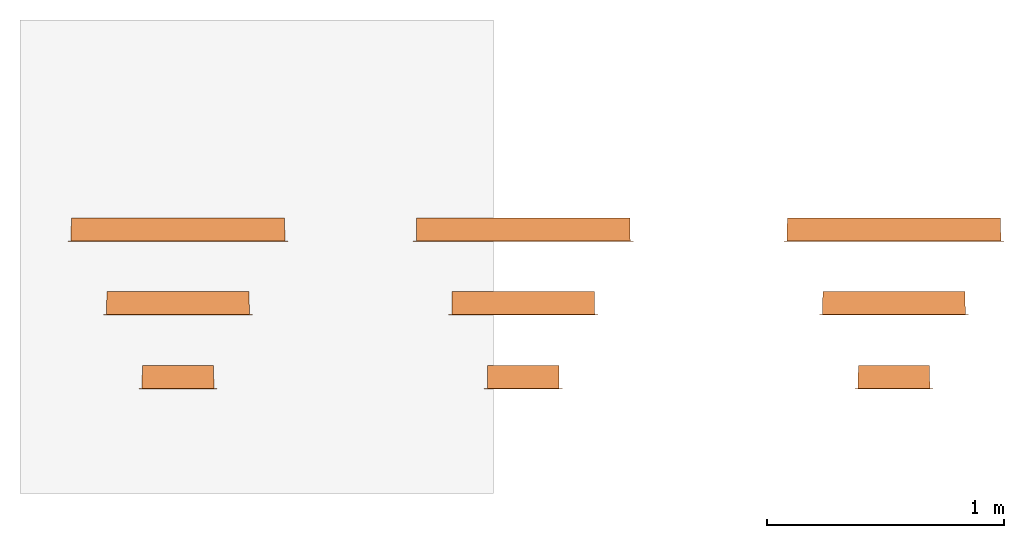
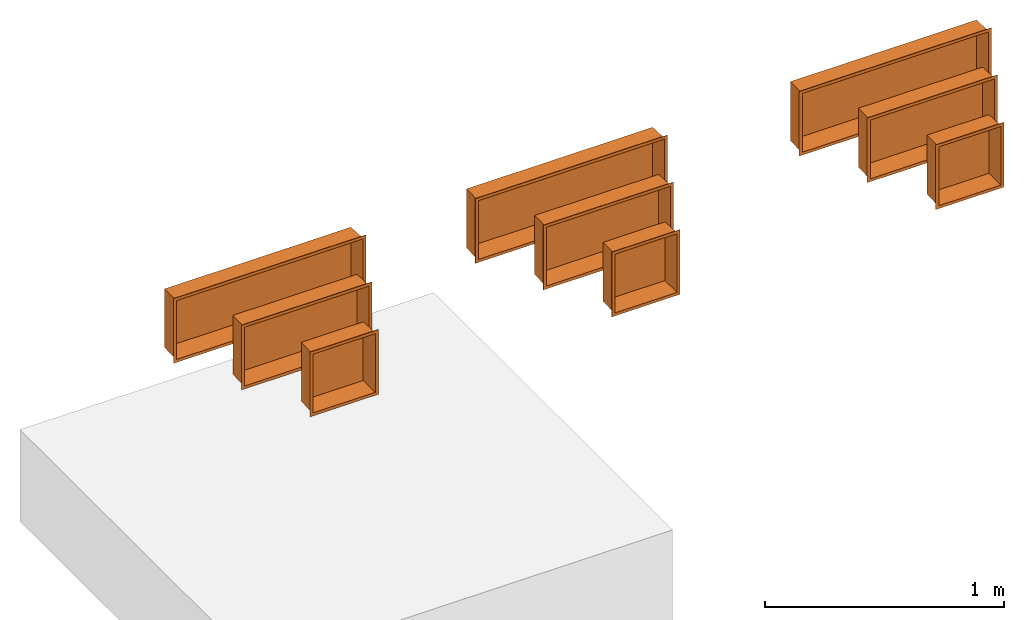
# One storey, part 2 of 2: 9 proxies.
"""IFC2X3 building model written with IfcOpenShell, lengths in millimetres."""

from ifc_helpers import new_model, entity, si_unit, converted_unit, derived_unit, direction, frame, origin, place, context, subcontext, project, spatial, faceted_brep, source, transform, mapped, material, type_object, type_shapes, element, save


model = new_model("IFC2X3")

# Units and contexts
model_context = context("Model", 3, precision=0.01, world=origin(), true_north=direction((6.12303176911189e-17, 1.0)))
context_of_model = context(None, 3, precision=0.01, world=origin(), true_north=direction((6.12303176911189e-17, 1.0)))
body_context = subcontext(model_context, "Body", "Model", "MODEL_VIEW")
ifc_project = project(units=[si_unit("LENGTHUNIT", "METRE", prefix="MILLI"), si_unit("AREAUNIT", "SQUARE_METRE"), si_unit("VOLUMEUNIT", "CUBIC_METRE"), converted_unit("PLANEANGLEUNIT", "DEGREE", entity("IfcRatioMeasure", 0.0174532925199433), si_unit("PLANEANGLEUNIT", "RADIAN"), dimensions=[0, 0, 0, 0, 0, 0, 0]), si_unit("MASSUNIT", "GRAM", prefix="KILO"), derived_unit("MASSDENSITYUNIT", [(si_unit("MASSUNIT", "GRAM", prefix="KILO"), 1), (si_unit("LENGTHUNIT", "METRE"), -3)]), si_unit("TIMEUNIT", "SECOND"), si_unit("FREQUENCYUNIT", "HERTZ"), si_unit("THERMODYNAMICTEMPERATUREUNIT", "DEGREE_CELSIUS"), derived_unit("THERMALTRANSMITTANCEUNIT", [(si_unit("MASSUNIT", "GRAM", prefix="KILO"), 1), (si_unit("THERMODYNAMICTEMPERATUREUNIT", "KELVIN"), -1), (si_unit("TIMEUNIT", "SECOND"), -3)]), derived_unit("VOLUMETRICFLOWRATEUNIT", [(si_unit("LENGTHUNIT", "METRE"), 3), (si_unit("TIMEUNIT", "SECOND"), -1)]), si_unit("ELECTRICCURRENTUNIT", "AMPERE"), si_unit("ELECTRICVOLTAGEUNIT", "VOLT"), si_unit("POWERUNIT", "WATT"), si_unit("FORCEUNIT", "NEWTON", prefix="KILO"), si_unit("ILLUMINANCEUNIT", "LUX"), si_unit("LUMINOUSFLUXUNIT", "LUMEN"), si_unit("LUMINOUSINTENSITYUNIT", "CANDELA"), derived_unit("USERDEFINED", [(si_unit("MASSUNIT", "GRAM", prefix="KILO"), -1), (si_unit("LENGTHUNIT", "METRE"), -2), (si_unit("TIMEUNIT", "SECOND"), 3), (si_unit("LUMINOUSFLUXUNIT", "LUMEN"), 1)]), derived_unit("LINEARVELOCITYUNIT", [(si_unit("LENGTHUNIT", "METRE"), 1), (si_unit("TIMEUNIT", "SECOND"), -1)]), si_unit("PRESSUREUNIT", "PASCAL"), derived_unit("USERDEFINED", [(si_unit("LENGTHUNIT", "METRE"), -2), (si_unit("MASSUNIT", "GRAM", prefix="KILO"), 1), (si_unit("TIMEUNIT", "SECOND"), -2)])], contexts=[model_context, context_of_model])

# Site, building, storey
site_placement = place(None, origin())
site = spatial("IfcSite", under=ifc_project, at=site_placement, Name="Default", CompositionType="ELEMENT")
building_placement = place(site_placement, origin())
building = spatial("IfcBuilding", under=site, at=building_placement, Name="n/a", CompositionType="ELEMENT")
storey_placement = place(building_placement, origin())
storey = spatial("IfcBuildingStorey", under=building, at=storey_placement, Name="Level 0", CompositionType="ELEMENT", Elevation=0.0)

# Proxies
ifc_material_1 = material(Name="DBLTD_Duten_Metal_BrushedBrass")
building_element_proxy_type_1 = type_object("IfcBuildingElementProxyType", PredefinedType="NOTDEFINED", material=ifc_material_1)
shared_shape_1 = source(origin(), body_context, "Body", "Brep", [
    faceted_brep([(315.0, 100.0, 315.0), (315.0, 100.0, 15.0), (15.0, 100.0, 15.0), (15.0, 100.0, 315.0), (317.0, 2.0, 317.0), (13.0, 2.0, 317.0), (13.0, 2.0, 13.0), (317.0, 2.0, 13.0), (15.0, 2.0, 315.0), (315.0, 2.0, 315.0), (315.0, 2.0, 15.0), (15.0, 2.0, 15.0), (313.0, 97.5743453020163, 313.0), (17.0, 97.5743453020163, 313.0), (17.0, 97.5743453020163, 17.0), (313.0, 97.5743453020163, 17.0)], [[[0, 1, 2, 3]], [[4, 5, 6, 7], [8, 9, 10, 11]], [[0, 3, 5, 4]], [[3, 2, 6, 5]], [[2, 1, 7, 6]], [[1, 0, 4, 7]], [[12, 13, 14, 15]], [[13, 12, 9, 8]], [[14, 13, 8, 11]], [[15, 14, 11, 10]], [[12, 15, 10, 9]]]),
    faceted_brep([(330.0, 0.0, 330.0), (0.0, 0.0, 330.0), (0.0, 0.0, 0.0), (330.0, 0.0, 0.0), (315.0, 0.0, 315.0), (315.0, 0.0, 15.0), (15.0, 0.0, 15.0), (15.0, 0.0, 315.0), (330.0, 2.0, 330.0), (330.0, 2.0, 0.0), (0.0, 2.0, 0.0), (0.0, 2.0, 330.0), (315.0, 2.0, 315.0), (15.0, 2.0, 315.0), (15.0, 2.0, 15.0), (315.0, 2.0, 15.0)], [[[0, 1, 2, 3], [4, 5, 6, 7]], [[8, 9, 10, 11], [12, 13, 14, 15]], [[1, 0, 8, 11]], [[2, 1, 11, 10]], [[3, 2, 10, 9]], [[0, 3, 9, 8]], [[5, 4, 12, 15]], [[6, 5, 15, 14]], [[7, 6, 14, 13]], [[4, 7, 13, 12]]]),
])
type_shapes(building_element_proxy_type_1, [shared_shape_1])
proxy_1_placement = place(storey_placement, frame((2120.04327716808, -48.2902614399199, 835.0)))
element("IfcBuildingElementProxy", 1, at=proxy_1_placement, inside=storey, type_object=building_element_proxy_type_1, material=ifc_material_1, Name="(7)", ObjectType="DBLTD_Duten_Shelves_RecessedNiche:Brushed Brass Niche 30cm", context=body_context, shape_type="MappedRepresentation", body=[
    mapped(shared_shape_1, transform((0.0, 0.0, 0.0), scale=1.0)),
])
building_element_proxy_type_2 = type_object("IfcBuildingElementProxyType", PredefinedType="NOTDEFINED", material=ifc_material_1)
shared_shape_2 = source(origin(), body_context, "Body", "Brep", [
    faceted_brep([(915.0, 100.0, 315.0), (915.0, 100.0, 15.0), (15.0, 100.0, 15.0), (15.0, 100.0, 315.0), (917.0, 2.0, 317.0), (13.0, 2.0, 317.0), (13.0, 2.0, 13.0), (917.0, 2.0, 13.0), (15.0, 2.0, 315.0), (915.0, 2.0, 315.0), (915.0, 2.0, 15.0), (15.0, 2.0, 15.0), (913.0, 97.5743453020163, 313.0), (17.0, 97.5743453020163, 313.0), (17.0, 97.5743453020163, 17.0), (913.0, 97.5743453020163, 17.0)], [[[0, 1, 2, 3]], [[4, 5, 6, 7], [8, 9, 10, 11]], [[0, 3, 5, 4]], [[3, 2, 6, 5]], [[2, 1, 7, 6]], [[1, 0, 4, 7]], [[12, 13, 14, 15]], [[13, 12, 9, 8]], [[14, 13, 8, 11]], [[15, 14, 11, 10]], [[12, 15, 10, 9]]]),
    faceted_brep([(930.0, 0.0, 330.0), (0.0, 0.0, 330.0), (0.0, 0.0, 0.0), (930.0, 0.0, 0.0), (915.0, 0.0, 315.0), (915.0, 0.0, 15.0), (15.0, 0.0, 15.0), (15.0, 0.0, 315.0), (930.0, 2.0, 330.0), (930.0, 2.0, 0.0), (0.0, 2.0, 0.0), (0.0, 2.0, 330.0), (915.0, 2.0, 315.0), (15.0, 2.0, 315.0), (15.0, 2.0, 15.0), (915.0, 2.0, 15.0)], [[[0, 1, 2, 3], [4, 5, 6, 7]], [[8, 9, 10, 11], [12, 13, 14, 15]], [[1, 0, 8, 11]], [[2, 1, 11, 10]], [[3, 2, 10, 9]], [[0, 3, 9, 8]], [[5, 4, 12, 15]], [[6, 5, 15, 14]], [[7, 6, 14, 13]], [[4, 7, 13, 12]]]),
])
type_shapes(building_element_proxy_type_2, [shared_shape_2])
proxy_2_placement = place(storey_placement, frame((1820.04327716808, 575.467987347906, 835.0)))
element("IfcBuildingElementProxy", 2, at=proxy_2_placement, inside=storey, type_object=building_element_proxy_type_2, material=ifc_material_1, Name="(9)", ObjectType="DBLTD_Duten_Shelves_RecessedNiche:Brushed Brass Niche 90cm", context=body_context, shape_type="MappedRepresentation", body=[
    mapped(shared_shape_2, transform((0.0, 0.0, 0.0), scale=1.0)),
])
building_element_proxy_type_3 = type_object("IfcBuildingElementProxyType", PredefinedType="NOTDEFINED", material=ifc_material_1)
shared_shape_3 = source(origin(), body_context, "Body", "Brep", [
    faceted_brep([(615.0, 100.0, 315.0), (615.0, 100.0, 15.0), (15.0, 100.0, 15.0), (15.0, 100.0, 315.0), (617.0, 2.0, 317.0), (13.0, 2.0, 317.0), (13.0, 2.0, 13.0), (617.0, 2.0, 13.0), (15.0, 2.0, 315.0), (615.0, 2.0, 315.0), (615.0, 2.0, 15.0), (15.0, 2.0, 15.0), (613.0, 97.5743453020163, 313.0), (17.0, 97.5743453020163, 313.0), (17.0, 97.5743453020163, 17.0), (613.0, 97.5743453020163, 17.0)], [[[0, 1, 2, 3]], [[4, 5, 6, 7], [8, 9, 10, 11]], [[0, 3, 5, 4]], [[3, 2, 6, 5]], [[2, 1, 7, 6]], [[1, 0, 4, 7]], [[12, 13, 14, 15]], [[13, 12, 9, 8]], [[14, 13, 8, 11]], [[15, 14, 11, 10]], [[12, 15, 10, 9]]]),
    faceted_brep([(630.0, 0.0, 330.0), (0.0, 0.0, 330.0), (0.0, 0.0, 0.0), (630.0, 0.0, 0.0), (615.0, 0.0, 315.0), (615.0, 0.0, 15.0), (15.0, 0.0, 15.0), (15.0, 0.0, 315.0), (630.0, 2.0, 330.0), (630.0, 2.0, 0.0), (0.0, 2.0, 0.0), (0.0, 2.0, 330.0), (615.0, 2.0, 315.0), (15.0, 2.0, 315.0), (15.0, 2.0, 15.0), (615.0, 2.0, 15.0)], [[[0, 1, 2, 3], [4, 5, 6, 7]], [[8, 9, 10, 11], [12, 13, 14, 15]], [[1, 0, 8, 11]], [[2, 1, 11, 10]], [[3, 2, 10, 9]], [[0, 3, 9, 8]], [[5, 4, 12, 15]], [[6, 5, 15, 14]], [[7, 6, 14, 13]], [[4, 7, 13, 12]]]),
])
type_shapes(building_element_proxy_type_3, [shared_shape_3])
proxy_3_placement = place(storey_placement, frame((1970.04327716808, 265.304306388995, 835.0)))
element("IfcBuildingElementProxy", 3, at=proxy_3_placement, inside=storey, type_object=building_element_proxy_type_3, material=ifc_material_1, Name="(11)", ObjectType="DBLTD_Duten_Shelves_RecessedNiche:Brushed Brass Niche 60cm", context=body_context, shape_type="MappedRepresentation", body=[
    mapped(shared_shape_3, transform((0.0, 0.0, 0.0), scale=1.0)),
])
ifc_material_2 = material(Name="DBLTD_Duten_Metal_BrushedStainlessSteel")
building_element_proxy_type_4 = type_object("IfcBuildingElementProxyType", PredefinedType="NOTDEFINED", material=ifc_material_2)
shared_shape_4 = source(origin(), body_context, "Body", "Brep", [
    faceted_brep([(315.0, 100.0, 315.0), (315.0, 100.0, 15.0), (15.0, 100.0, 15.0), (15.0, 100.0, 315.0), (317.0, 2.0, 317.0), (13.0, 2.0, 317.0), (13.0, 2.0, 13.0), (317.0, 2.0, 13.0), (15.0, 2.0, 315.0), (315.0, 2.0, 315.0), (315.0, 2.0, 15.0), (15.0, 2.0, 15.0), (313.0, 97.5743453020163, 313.0), (17.0, 97.5743453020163, 313.0), (17.0, 97.5743453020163, 17.0), (313.0, 97.5743453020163, 17.0)], [[[0, 1, 2, 3]], [[4, 5, 6, 7], [8, 9, 10, 11]], [[0, 3, 5, 4]], [[3, 2, 6, 5]], [[2, 1, 7, 6]], [[1, 0, 4, 7]], [[12, 13, 14, 15]], [[13, 12, 9, 8]], [[14, 13, 8, 11]], [[15, 14, 11, 10]], [[12, 15, 10, 9]]]),
    faceted_brep([(330.0, 0.0, 330.0), (0.0, 0.0, 330.0), (0.0, 0.0, 0.0), (330.0, 0.0, 0.0), (315.0, 0.0, 315.0), (315.0, 0.0, 15.0), (15.0, 0.0, 15.0), (15.0, 0.0, 315.0), (330.0, 2.0, 330.0), (330.0, 2.0, 0.0), (0.0, 2.0, 0.0), (0.0, 2.0, 330.0), (315.0, 2.0, 315.0), (15.0, 2.0, 315.0), (15.0, 2.0, 15.0), (315.0, 2.0, 15.0)], [[[0, 1, 2, 3], [4, 5, 6, 7]], [[8, 9, 10, 11], [12, 13, 14, 15]], [[1, 0, 8, 11]], [[2, 1, 11, 10]], [[3, 2, 10, 9]], [[0, 3, 9, 8]], [[5, 4, 12, 15]], [[6, 5, 15, 14]], [[7, 6, 14, 13]], [[4, 7, 13, 12]]]),
])
type_shapes(building_element_proxy_type_4, [shared_shape_4])
proxy_4_placement = place(storey_placement, frame((3578.50290761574, -48.2902614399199, 835.0)))
element("IfcBuildingElementProxy", 4, at=proxy_4_placement, inside=storey, type_object=building_element_proxy_type_4, material=ifc_material_2, Name="(13)", ObjectType="DBLTD_Duten_Shelves_RecessedNiche:Brushed Stainless Steel Niche 30cm", context=body_context, shape_type="MappedRepresentation", body=[
    mapped(shared_shape_4, transform((0.0, 0.0, 0.0), scale=1.0)),
])
building_element_proxy_type_5 = type_object("IfcBuildingElementProxyType", PredefinedType="NOTDEFINED", material=ifc_material_2)
shared_shape_5 = source(origin(), body_context, "Body", "Brep", [
    faceted_brep([(615.0, 100.0, 315.0), (615.0, 100.0, 15.0), (15.0, 100.0, 15.0), (15.0, 100.0, 315.0), (617.0, 2.0, 317.0), (13.0, 2.0, 317.0), (13.0, 2.0, 13.0), (617.0, 2.0, 13.0), (15.0, 2.0, 315.0), (615.0, 2.0, 315.0), (615.0, 2.0, 15.0), (15.0, 2.0, 15.0), (613.0, 97.5743453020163, 313.0), (17.0, 97.5743453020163, 313.0), (17.0, 97.5743453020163, 17.0), (613.0, 97.5743453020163, 17.0)], [[[0, 1, 2, 3]], [[4, 5, 6, 7], [8, 9, 10, 11]], [[0, 3, 5, 4]], [[3, 2, 6, 5]], [[2, 1, 7, 6]], [[1, 0, 4, 7]], [[12, 13, 14, 15]], [[13, 12, 9, 8]], [[14, 13, 8, 11]], [[15, 14, 11, 10]], [[12, 15, 10, 9]]]),
    faceted_brep([(630.0, 0.0, 330.0), (0.0, 0.0, 330.0), (0.0, 0.0, 0.0), (630.0, 0.0, 0.0), (615.0, 0.0, 315.0), (615.0, 0.0, 15.0), (15.0, 0.0, 15.0), (15.0, 0.0, 315.0), (630.0, 2.0, 330.0), (630.0, 2.0, 0.0), (0.0, 2.0, 0.0), (0.0, 2.0, 330.0), (615.0, 2.0, 315.0), (15.0, 2.0, 315.0), (15.0, 2.0, 15.0), (615.0, 2.0, 15.0)], [[[0, 1, 2, 3], [4, 5, 6, 7]], [[8, 9, 10, 11], [12, 13, 14, 15]], [[1, 0, 8, 11]], [[2, 1, 11, 10]], [[3, 2, 10, 9]], [[0, 3, 9, 8]], [[5, 4, 12, 15]], [[6, 5, 15, 14]], [[7, 6, 14, 13]], [[4, 7, 13, 12]]]),
])
type_shapes(building_element_proxy_type_5, [shared_shape_5])
proxy_5_placement = place(storey_placement, frame((3428.50290761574, 265.304306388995, 835.0)))
element("IfcBuildingElementProxy", 5, at=proxy_5_placement, inside=storey, type_object=building_element_proxy_type_5, material=ifc_material_2, Name="(15)", ObjectType="DBLTD_Duten_Shelves_RecessedNiche:Brushed Stainless Steel Niche 60cm", context=body_context, shape_type="MappedRepresentation", body=[
    mapped(shared_shape_5, transform((0.0, 0.0, 0.0), scale=1.0)),
])
building_element_proxy_type_6 = type_object("IfcBuildingElementProxyType", PredefinedType="NOTDEFINED", material=ifc_material_2)
shared_shape_6 = source(origin(), body_context, "Body", "Brep", [
    faceted_brep([(915.0, 100.0, 315.0), (915.0, 100.0, 15.0), (15.0, 100.0, 15.0), (15.0, 100.0, 315.0), (917.0, 2.0, 317.0), (13.0, 2.0, 317.0), (13.0, 2.0, 13.0), (917.0, 2.0, 13.0), (15.0, 2.0, 315.0), (915.0, 2.0, 315.0), (915.0, 2.0, 15.0), (15.0, 2.0, 15.0), (913.0, 97.5743453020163, 313.0), (17.0, 97.5743453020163, 313.0), (17.0, 97.5743453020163, 17.0), (913.0, 97.5743453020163, 17.0)], [[[0, 1, 2, 3]], [[4, 5, 6, 7], [8, 9, 10, 11]], [[0, 3, 5, 4]], [[3, 2, 6, 5]], [[2, 1, 7, 6]], [[1, 0, 4, 7]], [[12, 13, 14, 15]], [[13, 12, 9, 8]], [[14, 13, 8, 11]], [[15, 14, 11, 10]], [[12, 15, 10, 9]]]),
    faceted_brep([(930.0, 0.0, 330.0), (0.0, 0.0, 330.0), (0.0, 0.0, 0.0), (930.0, 0.0, 0.0), (915.0, 0.0, 315.0), (915.0, 0.0, 15.0), (15.0, 0.0, 15.0), (15.0, 0.0, 315.0), (930.0, 2.0, 330.0), (930.0, 2.0, 0.0), (0.0, 2.0, 0.0), (0.0, 2.0, 330.0), (915.0, 2.0, 315.0), (15.0, 2.0, 315.0), (15.0, 2.0, 15.0), (915.0, 2.0, 15.0)], [[[0, 1, 2, 3], [4, 5, 6, 7]], [[8, 9, 10, 11], [12, 13, 14, 15]], [[1, 0, 8, 11]], [[2, 1, 11, 10]], [[3, 2, 10, 9]], [[0, 3, 9, 8]], [[5, 4, 12, 15]], [[6, 5, 15, 14]], [[7, 6, 14, 13]], [[4, 7, 13, 12]]]),
])
type_shapes(building_element_proxy_type_6, [shared_shape_6])
proxy_6_placement = place(storey_placement, frame((3278.50290761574, 575.467987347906, 835.0)))
element("IfcBuildingElementProxy", 6, at=proxy_6_placement, inside=storey, type_object=building_element_proxy_type_6, material=ifc_material_2, Name="(17)", ObjectType="DBLTD_Duten_Shelves_RecessedNiche:Brushed Stainless Steel Niche 90cm", context=body_context, shape_type="MappedRepresentation", body=[
    mapped(shared_shape_6, transform((0.0, 0.0, 0.0), scale=1.0)),
])
ifc_material_3 = material(Name="DBLTD_Duten_Metal_MatteBlack")
building_element_proxy_type_7 = type_object("IfcBuildingElementProxyType", PredefinedType="NOTDEFINED", material=ifc_material_3)
shared_shape_7 = source(origin(), body_context, "Body", "Brep", [
    faceted_brep([(315.0, 100.0, 315.0), (315.0, 100.0, 15.0), (15.0, 100.0, 15.0), (15.0, 100.0, 315.0), (317.0, 2.0, 317.0), (13.0, 2.0, 317.0), (13.0, 2.0, 13.0), (317.0, 2.0, 13.0), (15.0, 2.0, 315.0), (315.0, 2.0, 315.0), (315.0, 2.0, 15.0), (15.0, 2.0, 15.0), (313.0, 97.5743453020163, 313.0), (17.0, 97.5743453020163, 313.0), (17.0, 97.5743453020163, 17.0), (313.0, 97.5743453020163, 17.0)], [[[0, 1, 2, 3]], [[4, 5, 6, 7], [8, 9, 10, 11]], [[0, 3, 5, 4]], [[3, 2, 6, 5]], [[2, 1, 7, 6]], [[1, 0, 4, 7]], [[12, 13, 14, 15]], [[13, 12, 9, 8]], [[14, 13, 8, 11]], [[15, 14, 11, 10]], [[12, 15, 10, 9]]]),
    faceted_brep([(330.0, 0.0, 330.0), (0.0, 0.0, 330.0), (0.0, 0.0, 0.0), (330.0, 0.0, 0.0), (315.0, 0.0, 315.0), (315.0, 0.0, 15.0), (15.0, 0.0, 15.0), (15.0, 0.0, 315.0), (330.0, 2.0, 330.0), (330.0, 2.0, 0.0), (0.0, 2.0, 0.0), (0.0, 2.0, 330.0), (315.0, 2.0, 315.0), (15.0, 2.0, 315.0), (15.0, 2.0, 15.0), (315.0, 2.0, 15.0)], [[[0, 1, 2, 3], [4, 5, 6, 7]], [[8, 9, 10, 11], [12, 13, 14, 15]], [[1, 0, 8, 11]], [[2, 1, 11, 10]], [[3, 2, 10, 9]], [[0, 3, 9, 8]], [[5, 4, 12, 15]], [[6, 5, 15, 14]], [[7, 6, 14, 13]], [[4, 7, 13, 12]]]),
])
type_shapes(building_element_proxy_type_7, [shared_shape_7])
proxy_7_placement = place(storey_placement, frame((5143.95397852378, -48.2902614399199, 835.0)))
element("IfcBuildingElementProxy", 7, at=proxy_7_placement, inside=storey, type_object=building_element_proxy_type_7, material=ifc_material_3, Name="(19)", ObjectType="DBLTD_Duten_Shelves_RecessedNiche:Matte Black Niche 30cm", context=body_context, shape_type="MappedRepresentation", body=[
    mapped(shared_shape_7, transform((0.0, 0.0, 0.0), scale=1.0)),
])
building_element_proxy_type_8 = type_object("IfcBuildingElementProxyType", PredefinedType="NOTDEFINED", material=ifc_material_3)
shared_shape_8 = source(origin(), body_context, "Body", "Brep", [
    faceted_brep([(615.0, 100.0, 315.0), (615.0, 100.0, 15.0), (15.0, 100.0, 15.0), (15.0, 100.0, 315.0), (617.0, 2.0, 317.0), (13.0, 2.0, 317.0), (13.0, 2.0, 13.0), (617.0, 2.0, 13.0), (15.0, 2.0, 315.0), (615.0, 2.0, 315.0), (615.0, 2.0, 15.0), (15.0, 2.0, 15.0), (613.0, 97.5743453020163, 313.0), (17.0, 97.5743453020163, 313.0), (17.0, 97.5743453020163, 17.0), (613.0, 97.5743453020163, 17.0)], [[[0, 1, 2, 3]], [[4, 5, 6, 7], [8, 9, 10, 11]], [[0, 3, 5, 4]], [[3, 2, 6, 5]], [[2, 1, 7, 6]], [[1, 0, 4, 7]], [[12, 13, 14, 15]], [[13, 12, 9, 8]], [[14, 13, 8, 11]], [[15, 14, 11, 10]], [[12, 15, 10, 9]]]),
    faceted_brep([(630.0, 0.0, 330.0), (0.0, 0.0, 330.0), (0.0, 0.0, 0.0), (630.0, 0.0, 0.0), (615.0, 0.0, 315.0), (615.0, 0.0, 15.0), (15.0, 0.0, 15.0), (15.0, 0.0, 315.0), (630.0, 2.0, 330.0), (630.0, 2.0, 0.0), (0.0, 2.0, 0.0), (0.0, 2.0, 330.0), (615.0, 2.0, 315.0), (15.0, 2.0, 315.0), (15.0, 2.0, 15.0), (615.0, 2.0, 15.0)], [[[0, 1, 2, 3], [4, 5, 6, 7]], [[8, 9, 10, 11], [12, 13, 14, 15]], [[1, 0, 8, 11]], [[2, 1, 11, 10]], [[3, 2, 10, 9]], [[0, 3, 9, 8]], [[5, 4, 12, 15]], [[6, 5, 15, 14]], [[7, 6, 14, 13]], [[4, 7, 13, 12]]]),
])
type_shapes(building_element_proxy_type_8, [shared_shape_8])
proxy_8_placement = place(storey_placement, frame((4993.95397852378, 265.304306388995, 835.0)))
element("IfcBuildingElementProxy", 8, at=proxy_8_placement, inside=storey, type_object=building_element_proxy_type_8, material=ifc_material_3, Name="(21)", ObjectType="DBLTD_Duten_Shelves_RecessedNiche:Matte Black Niche 60cm", context=body_context, shape_type="MappedRepresentation", body=[
    mapped(shared_shape_8, transform((0.0, 0.0, 0.0), scale=1.0)),
])
building_element_proxy_type_9 = type_object("IfcBuildingElementProxyType", PredefinedType="NOTDEFINED", material=ifc_material_3)
shared_shape_9 = source(origin(), body_context, "Body", "Brep", [
    faceted_brep([(915.0, 100.0, 315.0), (915.0, 100.0, 15.0), (15.0, 100.0, 15.0), (15.0, 100.0, 315.0), (917.0, 2.0, 317.0), (13.0, 2.0, 317.0), (13.0, 2.0, 13.0), (917.0, 2.0, 13.0), (15.0, 2.0, 315.0), (915.0, 2.0, 315.0), (915.0, 2.0, 15.0), (15.0, 2.0, 15.0), (913.0, 97.5743453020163, 313.0), (17.0, 97.5743453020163, 313.0), (17.0, 97.5743453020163, 17.0), (913.0, 97.5743453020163, 17.0)], [[[0, 1, 2, 3]], [[4, 5, 6, 7], [8, 9, 10, 11]], [[0, 3, 5, 4]], [[3, 2, 6, 5]], [[2, 1, 7, 6]], [[1, 0, 4, 7]], [[12, 13, 14, 15]], [[13, 12, 9, 8]], [[14, 13, 8, 11]], [[15, 14, 11, 10]], [[12, 15, 10, 9]]]),
    faceted_brep([(930.0, 0.0, 330.0), (0.0, 0.0, 330.0), (0.0, 0.0, 0.0), (930.0, 0.0, 0.0), (915.0, 0.0, 315.0), (915.0, 0.0, 15.0), (15.0, 0.0, 15.0), (15.0, 0.0, 315.0), (930.0, 2.0, 330.0), (930.0, 2.0, 0.0), (0.0, 2.0, 0.0), (0.0, 2.0, 330.0), (915.0, 2.0, 315.0), (15.0, 2.0, 315.0), (15.0, 2.0, 15.0), (915.0, 2.0, 15.0)], [[[0, 1, 2, 3], [4, 5, 6, 7]], [[8, 9, 10, 11], [12, 13, 14, 15]], [[1, 0, 8, 11]], [[2, 1, 11, 10]], [[3, 2, 10, 9]], [[0, 3, 9, 8]], [[5, 4, 12, 15]], [[6, 5, 15, 14]], [[7, 6, 14, 13]], [[4, 7, 13, 12]]]),
])
type_shapes(building_element_proxy_type_9, [shared_shape_9])
proxy_9_placement = place(storey_placement, frame((4843.95397852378, 575.467987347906, 835.0)))
element("IfcBuildingElementProxy", 9, at=proxy_9_placement, inside=storey, type_object=building_element_proxy_type_9, material=ifc_material_3, Name="(23)", ObjectType="DBLTD_Duten_Shelves_RecessedNiche:Matte Black Niche 90cm", context=body_context, shape_type="MappedRepresentation", body=[
    mapped(shared_shape_9, transform((0.0, 0.0, 0.0), scale=1.0)),
])

save(model, "model.ifc")
